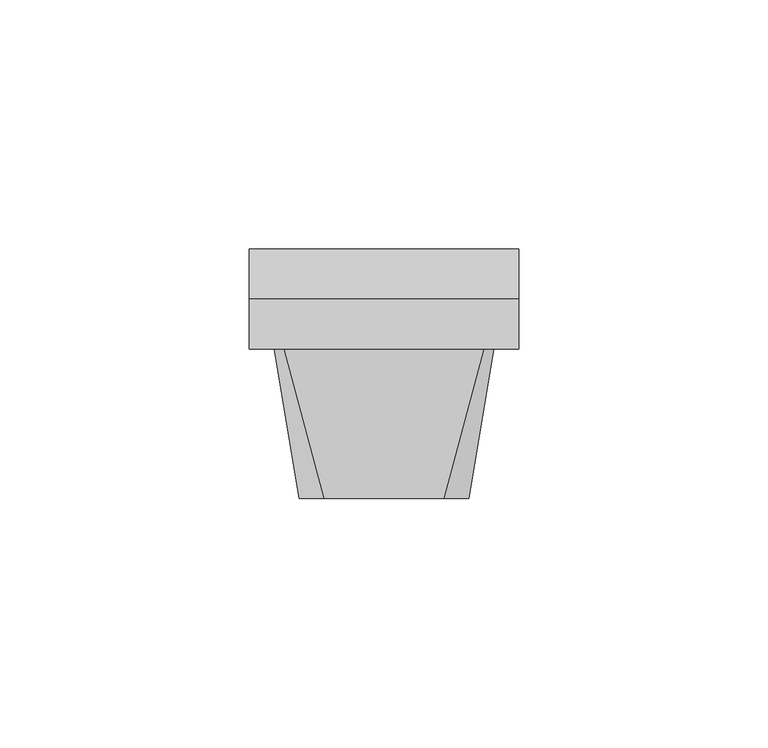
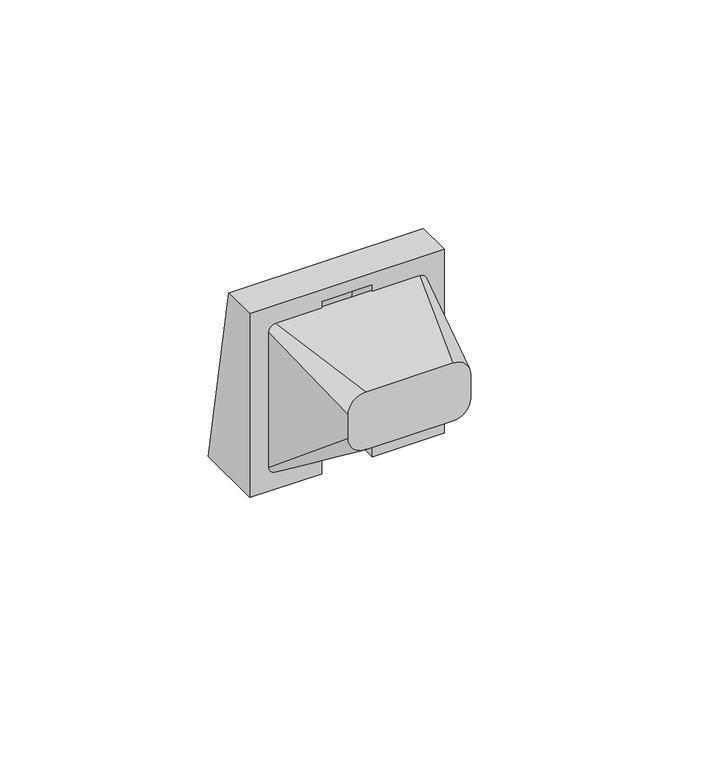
"""IFC4 building model written with IfcOpenShell, lengths in millimetres: proxy geometry, IEK_Brite_Механизм подсветки, вывод кабеля : ВК_МВ10-БрА."""

from ifc_helpers import new_model, si_unit, frame, origin, place, context, project, spatial, circle_curve, faceted_brep, source, transform, mapped, element, save
from ifc_brep_helpers import plane_surface, spline_surface, advanced_brep


def electrical_fixtures_6e0d8de4(model_context):
    return source(origin(), model_context, "Body", "SolidModel", [
        faceted_brep([(27.0, 10.0, 27.0), (27.0, 0.0, 27.0), (27.0, 0.0, -27.0), (27.0, 20.0, -27.0), (-27.0, 10.0, 27.0), (-27.0, 20.0, -27.0), (-27.0, 0.0, -27.0), (-27.0, 0.0, 27.0), (-7.0, 0.0, -27.0), (-7.0, 0.0, 23.6184599), (7.0, 0.0, 23.6184599), (7.0, 0.0, -27.0), (7.0, 17.8032022, -27.0), (-7.0, 17.8032022, -27.0), (7.0, 7.9639703, 23.6184599), (-7.0, 7.9639703, 23.6184599)], [[[0, 1, 2, 3]], [[4, 5, 6, 7]], [[1, 0, 4, 7]], [[2, 1, 7, 6, 8, 9, 10, 11]], [[3, 2, 11, 12, 13, 8, 6, 5]], [[0, 3, 5, 4]], [[10, 14, 12, 11]], [[13, 15, 9, 8]], [[12, 14, 15, 13]], [[14, 10, 9, 15]]]),
        advanced_brep(
        [(-12.0, -30.0, 17.0), (-17.0, -30.0, 12.0), (-17.0, -30.0, 5.0), (-12.0, -30.0, 0.0), (12.0, -30.0, 0.0), (17.0, -30.0, 5.0), (17.0, -30.0, 12.0), (12.0, -30.0, 17.0), (-20.0, 0.0, 22.0), (20.0, 0.0, 22.0), (22.0, 0.0, 20.0), (22.0, 0.0, -20.0), (20.0, 0.0, -22.0), (-20.0, 0.0, -22.0), (-22.0, 0.0, -20.0), (-22.0, 0.0, 20.0)],
        [
            (0, 1, circle_curve(frame((-12.0, -30.0, 12.0), z_axis=(0.0, -1.0, 0.0), x_axis=(1.0, 0.0, 0.0)), 5.0)),
            (1, 2),
            (2, 3, circle_curve(frame((-12.0, -30.0, 5.0), z_axis=(0.0, -1.0, 0.0), x_axis=(1.0, 0.0, 0.0)), 5.0)),
            (3, 4),
            (4, 5, circle_curve(frame((12.0, -30.0, 5.0), z_axis=(0.0, -1.0, 0.0), x_axis=(1.0, 0.0, 0.0)), 5.0)),
            (5, 6),
            (6, 7, circle_curve(frame((12.0, -30.0, 12.0), z_axis=(0.0, -1.0, 0.0), x_axis=(1.0, 0.0, 0.0)), 5.0)),
            (7, 0),
            (8, 9),
            (9, 10, circle_curve(frame((20.0, 0.0, 20.0), z_axis=(0.0, 1.0, 0.0), x_axis=(1.0, 0.0, 0.0)), 2.0)),
            (10, 11),
            (11, 12, circle_curve(frame((20.0, 0.0, -20.0), z_axis=(0.0, 1.0, 0.0), x_axis=(1.0, 0.0, 0.0)), 2.0)),
            (12, 13),
            (13, 14, circle_curve(frame((-20.0, 0.0, -20.0), z_axis=(0.0, 1.0, 0.0), x_axis=(1.0, 0.0, 0.0)), 2.0)),
            (14, 15),
            (15, 8, circle_curve(frame((-20.0, 0.0, 20.0), z_axis=(0.0, 1.0, 0.0), x_axis=(1.0, 0.0, 0.0)), 2.0)),
            (8, 0),
            (7, 9),
            (6, 10),
            (5, 11),
            (4, 12),
            (3, 13),
            (2, 14),
            (1, 15),
        ],
        [
            plane_surface(frame((0.0, -30.0, 8.5), z_axis=(0.0, -1.0, 0.0), x_axis=(-1.0, 0.0, 0.0))),
            plane_surface(frame((0.0, 0.0, 0.0), z_axis=(0.0, 1.0, 0.0), x_axis=(-1.0, 0.0, 0.0))),
            plane_surface(frame((0.0, 0.0, 22.0), z_axis=(0.0, -0.16439898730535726, 0.9863939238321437), x_axis=(-1.0, 0.0, 0.0))),
            spline_surface(2, 1, [[(22.0, 0.0, 20.0), (17.0, -30.0, 12.0)], [(22.0, 0.0, 22.0), (17.0, -30.0, 17.0)], [(20.0, 0.0, 22.0), (12.0, -30.0, 17.0)]], [3, 3], [2, 2], [0.0, 1.0], [0.0, 1.0], weights=[[1.0, 1.0], [0.7071067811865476, 0.7071067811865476], [1.0, 1.0]]),
            plane_surface(frame((22.0, 0.0, 0.0), z_axis=(0.9863939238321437, -0.1643989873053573, 0.0), x_axis=(0.0, 0.0, 1.0))),
            spline_surface(2, 1, [[(20.0, 0.0, -22.0), (12.0, -30.0, 0.0)], [(22.0, 0.0, -22.0), (17.0, -30.0, 0.0)], [(22.0, 0.0, -20.0), (17.0, -30.0, 5.0)]], [3, 3], [2, 2], [0.0, 1.0], [0.0, 1.0], weights=[[1.0, 1.0], [0.7071067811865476, 0.7071067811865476], [1.0, 1.0]]),
            plane_surface(frame((0.0, 0.0, -22.0), z_axis=(0.0, -0.591363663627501, -0.8064049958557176), x_axis=(1.0, 0.0, 0.0))),
            spline_surface(2, 1, [[(-22.0, 0.0, -20.0), (-17.0, -30.0, 5.0)], [(-22.0, 0.0, -22.0), (-17.0, -30.0, 0.0)], [(-20.0, 0.0, -22.0), (-12.0, -30.0, 0.0)]], [3, 3], [2, 2], [0.0, 1.0], [0.0, 1.0], weights=[[1.0, 1.0], [0.7071067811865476, 0.7071067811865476], [1.0, 1.0]]),
            plane_surface(frame((-22.0, 0.0, 0.0), z_axis=(-0.9863939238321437, -0.1643989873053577, 0.0), x_axis=(0.0, 0.0, -1.0))),
            spline_surface(2, 1, [[(-20.0, 0.0, 22.0), (-12.0, -30.0, 17.0)], [(-22.0, 0.0, 22.0), (-17.0, -30.0, 17.0)], [(-22.0, 0.0, 20.0), (-17.0, -30.0, 12.0)]], [3, 3], [2, 2], [0.0, 1.0], [0.0, 1.0], weights=[[1.0, 1.0], [0.7071067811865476, 0.7071067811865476], [1.0, 1.0]]),
        ],
        [
            (0, [[1, 2, 3, 4, 5, 6, 7, 8]]),
            (1, [[9, 10, 11, 12, 13, 14, 15, 16]]),
            (2, [[-9, 17, -8, 18]]),
            (3, [[-10, -18, -7, 19]]),
            (4, [[-11, -19, -6, 20]]),
            (5, [[-12, -20, -5, 21]]),
            (6, [[-13, -21, -4, 22]]),
            (7, [[-14, -22, -3, 23]]),
            (8, [[-15, -23, -2, 24]]),
            (9, [[-16, -24, -1, -17]]),
        ],
    ),
    ])


if __name__ == "__main__":
    model = new_model("IFC4")
    model_context = context("Model", 3, world=origin())
    ifc_project = project(units=[si_unit("LENGTHUNIT", "METRE", prefix="MILLI")], contexts=[model_context])
    site = spatial("IfcSite", under=ifc_project)
    building = spatial("IfcBuilding", under=site)
    placement = place(None, origin())
    electrical_fixtures_shape = electrical_fixtures_6e0d8de4(model_context)
    element("IfcBuildingElementProxy", 1, Name="IEK_Brite_Механизм подсветки, вывод кабеля : ВК_МВ10-БрА", ObjectType="IEK_Brite_Механизм подсветки, вывод кабеля : ВК_МВ10-БрА", at=placement, inside=building, context=model_context, shape_type="MappedRepresentation", body=[
        mapped(electrical_fixtures_shape, transform((0.0, 0.0, 0.0), x_axis=(1.0, 0.0, 0.0), y_axis=(0.0, 1.0, 0.0), z_axis=(0.0, 0.0, 1.0))),
    ])
    save(model, "model.ifc")
